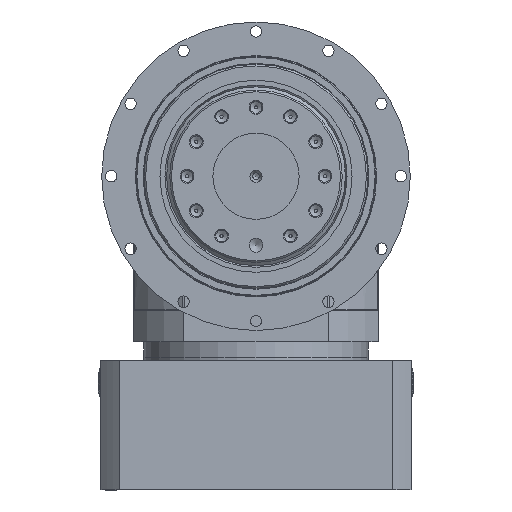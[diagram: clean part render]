
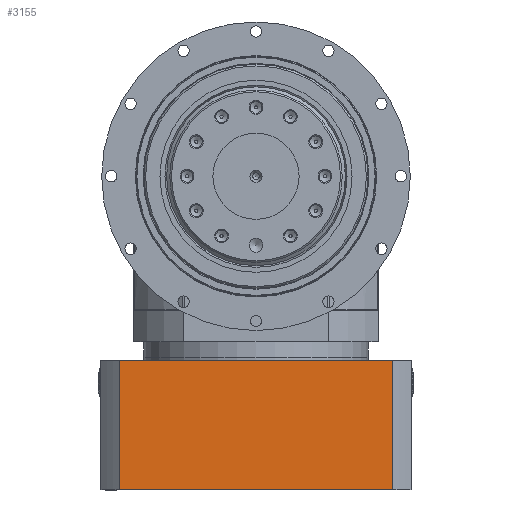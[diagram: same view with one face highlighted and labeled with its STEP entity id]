
A CAD part, left-side view. The second image highlights one B-rep face of the part: STEP entity #3155.
In plain terms, the highlighted planar face has unit normal (-1, 0, 0).
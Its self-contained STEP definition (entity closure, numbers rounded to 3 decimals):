
#101 = EDGE_CURVE ( 'NONE', #13005, #2188, #9004, .T. ) ;
#850 = LINE ( 'NONE', #5417, #11663 ) ;
#912 = DIRECTION ( 'NONE',  ( 0., 0., 1. ) ) ;
#2093 = VECTOR ( 'NONE', #912, 1000. ) ;
#2144 = EDGE_CURVE ( 'NONE', #2188, #7426, #850, .T. ) ;
#2188 = VERTEX_POINT ( 'NONE', #4027 ) ;
#3155 = ADVANCED_FACE ( 'NONE', ( #9867 ), #8700, .F. ) ;
#4027 = CARTESIAN_POINT ( 'NONE',  ( 9.5, 79.373, -107. ) ) ;
#4162 = EDGE_CURVE ( 'NONE', #7426, #11052, #9087, .T. ) ;
#4580 = DIRECTION ( 'NONE',  ( 0., 0., -1. ) ) ;
#4967 = CARTESIAN_POINT ( 'NONE',  ( 9.5, 87.617, -105. ) ) ;
#5330 = AXIS2_PLACEMENT_3D ( 'NONE', #4967, #11108, #15066 ) ;
#5417 = CARTESIAN_POINT ( 'NONE',  ( 9.5, 0., -107. ) ) ;
#5940 = VECTOR ( 'NONE', #4580, 1000. ) ;
#6410 = VECTOR ( 'NONE', #11740, 1000. ) ;
#7308 = CARTESIAN_POINT ( 'NONE',  ( 9.5, -79.373, -107. ) ) ;
#7426 = VERTEX_POINT ( 'NONE', #7308 ) ;
#8370 = CARTESIAN_POINT ( 'NONE',  ( 9.5, -79.373, -182. ) ) ;
#8700 = PLANE ( 'NONE',  #5330 ) ;
#9004 = LINE ( 'NONE', #9648, #2093 ) ;
#9087 = LINE ( 'NONE', #8370, #5940 ) ;
#9130 = EDGE_LOOP ( 'NONE', ( #15740, #14159, #9738, #16109 ) ) ;
#9648 = CARTESIAN_POINT ( 'NONE',  ( 9.5, 79.373, -182. ) ) ;
#9738 = ORIENTED_EDGE ( 'NONE', *, *, #10566, .F. ) ;
#9867 = FACE_OUTER_BOUND ( 'NONE', #9130, .T. ) ;
#10566 = EDGE_CURVE ( 'NONE', #11052, #13005, #12090, .T. ) ;
#11052 = VERTEX_POINT ( 'NONE', #11446 ) ;
#11108 = DIRECTION ( 'NONE',  ( 1., 0., 0. ) ) ;
#11196 = CARTESIAN_POINT ( 'NONE',  ( 9.5, 79.373, -182. ) ) ;
#11446 = CARTESIAN_POINT ( 'NONE',  ( 9.5, -79.373, -182. ) ) ;
#11663 = VECTOR ( 'NONE', #15237, 1000. ) ;
#11740 = DIRECTION ( 'NONE',  ( 0., 1., 0. ) ) ;
#12090 = LINE ( 'NONE', #15364, #6410 ) ;
#13005 = VERTEX_POINT ( 'NONE', #11196 ) ;
#14159 = ORIENTED_EDGE ( 'NONE', *, *, #101, .F. ) ;
#15066 = DIRECTION ( 'NONE',  ( 0., 1., 0. ) ) ;
#15237 = DIRECTION ( 'NONE',  ( 0., -1., 0. ) ) ;
#15364 = CARTESIAN_POINT ( 'NONE',  ( 9.5, 0., -182. ) ) ;
#15740 = ORIENTED_EDGE ( 'NONE', *, *, #2144, .F. ) ;
#16109 = ORIENTED_EDGE ( 'NONE', *, *, #4162, .F. ) ;
